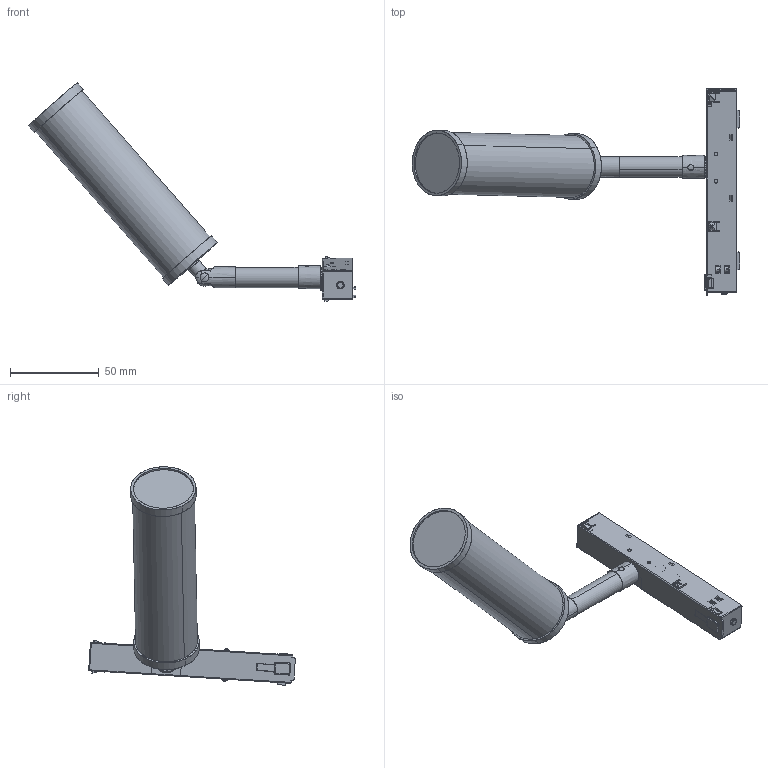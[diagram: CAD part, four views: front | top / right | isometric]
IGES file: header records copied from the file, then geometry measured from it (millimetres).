
Start section: SolidWorks IGES file using analytic representation for surfaces
Global section: file name: C:\Users\Agustin\Desktop\ANGELA\2026\ARQUITECTURAL\DODO\3D\DOOD_TRACK.IGS; native system: SolidWorks 2023; preprocessor: SolidWorks 2023; author: Agustin; date: 260428.160721; units: millimetre
Bounding box: 185.06 x 116.69 x 123.42 mm (x, y, z)
Surface area: 51675 mm2 (no closed solid volume)
Topology: 0 solids, 0 shells, 1607 faces, 12921 edges, 12888 vertices
Faces by surface type: bspline 1315, revolution 292
